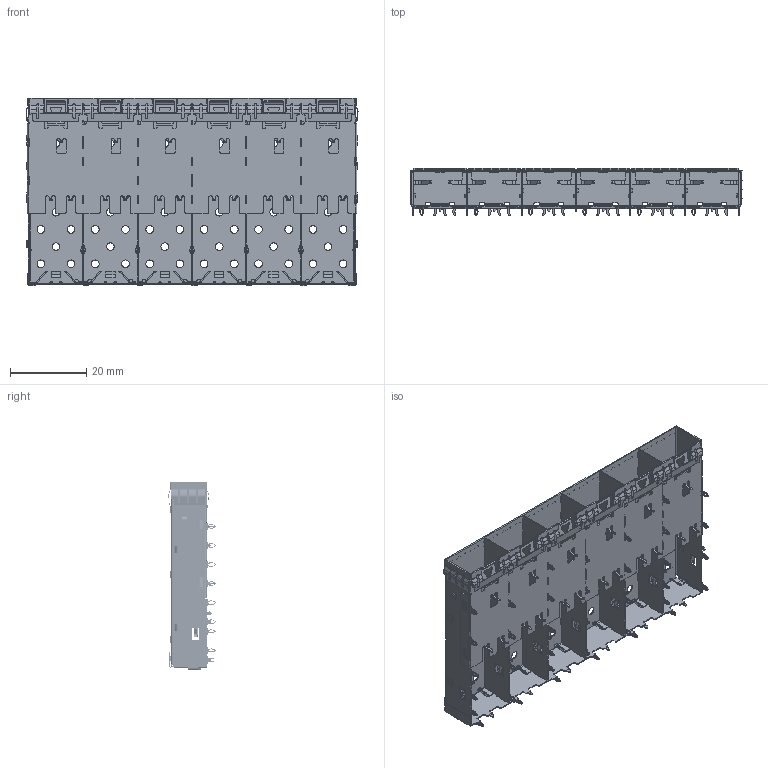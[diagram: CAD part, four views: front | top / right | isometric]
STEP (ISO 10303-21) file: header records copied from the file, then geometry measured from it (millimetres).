
FILE_DESCRIPTION((''),'2;1');
FILE_NAME('CP_1X6________7','2022-03-28T',('08020'),(''),'CREO PARAMETRIC BY PTC INC, 2017170','CREO PARAMETRIC BY PTC INC, 2017170','');
FILE_SCHEMA(('AP203_CONFIGURATION_CONTROLLED_3D_DESIGN_OF_MECHANICAL_PARTS_AND_ASSEMBLIES_MIM_LF { 1 0 10303 403 2 1 2 }'));
Products named in the file (1): CP_1X6________7
Bounding box: 86.95 x 12.4 x 49 mm (x, y, z)
Volume: 2747.6 mm3; surface area: 23362.5 mm2
Topology: 1 solids, 1 shells, 4893 faces, 14656 edges, 9530 vertices
Faces by surface type: cylinder 2562, plane 2221, extrusion 58, bspline 52
Entity records: 214611 total; most frequent: CARTESIAN_POINT 34553, ORIENTED_EDGE 29312, DIRECTION 28496, PRESENTATION_STYLE_ASSIGNMENT 14657, STYLED_ITEM 14657, CURVE_STYLE 14656, EDGE_CURVE 14656, AXIS2_PLACEMENT_3D 9706
